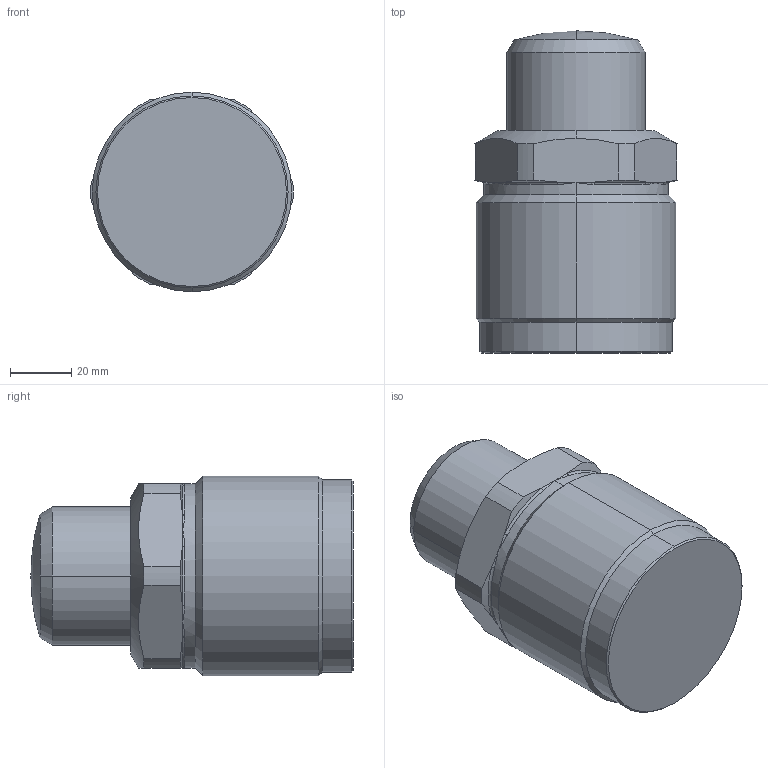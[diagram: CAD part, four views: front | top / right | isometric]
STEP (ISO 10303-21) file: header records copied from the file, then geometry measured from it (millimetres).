
FILE_DESCRIPTION((' '),'2;1');
FILE_NAME( 'CMC40-25R.x_t.stp', '2024-08-27T13:58:41', (' '), ('--- Datakit www.datakit.com---'), ' Datakit CrossCadWare V2024.1 Dec 21 2023', 'Mastercam 2025', ' ');
FILE_SCHEMA(('AUTOMOTIVE_DESIGN { 1 0 10303 214 1 1 1 1 }'));
Length unit declared in the file: millimetre
Products named in the file (1): CMC40-25R
Bounding box: 65.97 x 105 x 65 mm (x, y, z)
Volume: 238012.4 mm3; surface area: 31321.1 mm2
Topology: 2 solids, 2 shells, 62 faces, 155 edges, 84 vertices
Faces by surface type: cylinder 16, cone 16, bspline 12, plane 10, torus 6, sphere 2
Entity records: 3657 total; most frequent: CARTESIAN_POINT 2296, ORIENTED_EDGE 282, DIRECTION 264, EDGE_CURVE 141, AXIS2_PLACEMENT_3D 116, VERTEX_POINT 84, CIRCLE 65, EDGE_LOOP 63
